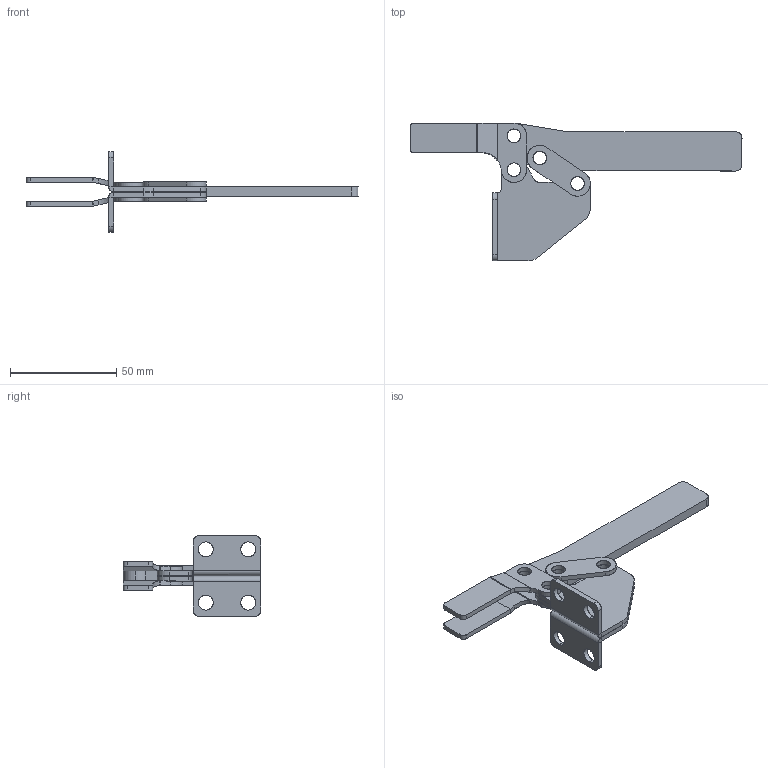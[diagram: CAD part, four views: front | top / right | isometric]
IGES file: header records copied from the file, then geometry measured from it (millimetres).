
Start section: SolidWorks IGES file using analytic representation for surfaces
Global section: file name: D:\GH Files\GH-SW-FILES\GH2\21383\21383.IGS; native system: SolidWorks 2007; preprocessor: SolidWorks 2007; author: Administrator; date: 061018.164319; units: millimetre
Bounding box: 156.5 x 65.01 x 38.15 mm (x, y, z)
Surface area: 20638 mm2 (no closed solid volume)
Topology: 0 solids, 0 shells, 173 faces, 2584 edges, 2584 vertices
Faces by surface type: revolution 90, bspline 83
